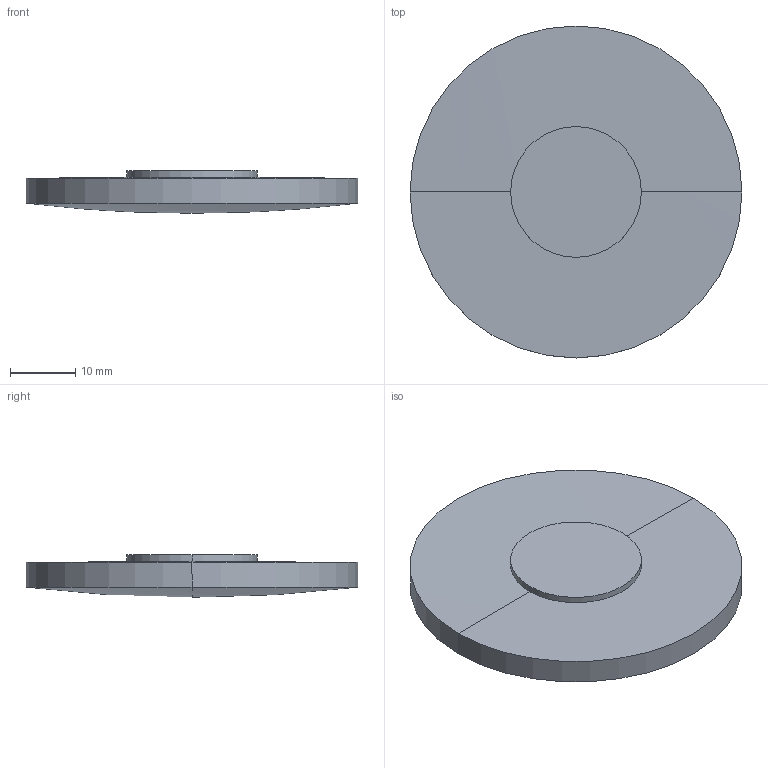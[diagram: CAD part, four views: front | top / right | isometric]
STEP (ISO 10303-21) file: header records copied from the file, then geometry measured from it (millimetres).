
FILE_DESCRIPTION(('STEP AP214'),'1');
FILE_NAME('LLV-51380.STEP','2020-03-09T17:42:27',(' '),(' '),'Spatial InterOp 3D',' ',' ');
FILE_SCHEMA(('AUTOMOTIVE_DESIGN { 1 0 10303 214 1 1 1 1 }'));
Length unit declared in the file: millimetre
Products named in the file (1): 1
Bounding box: 50.8 x 50.8 x 6.5 mm (x, y, z)
Volume: 9752.5 mm3; surface area: 5360.5 mm2
Topology: 2 solids, 2 shells, 10 faces, 20 edges, 10 vertices
Faces by surface type: sphere 4, cylinder 4, plane 2
Entity records: 255 total; most frequent: DIRECTION 52, CARTESIAN_POINT 38, ORIENTED_EDGE 32, AXIS2_PLACEMENT_3D 24, EDGE_CURVE 16, CIRCLE 12, ADVANCED_FACE 10, FACE_OUTER_BOUND 10
